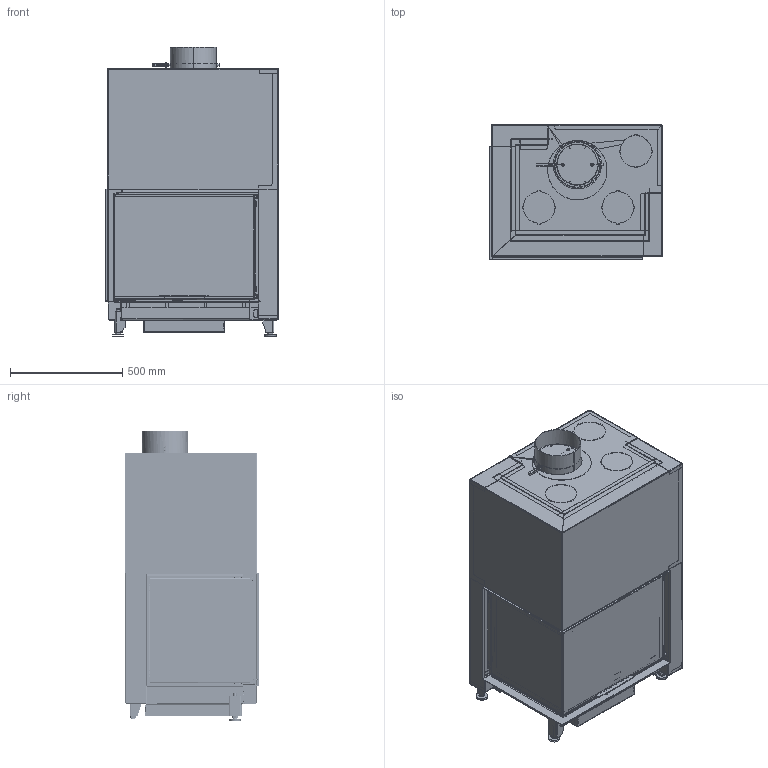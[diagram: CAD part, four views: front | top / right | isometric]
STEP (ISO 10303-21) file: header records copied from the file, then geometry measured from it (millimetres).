
FILE_DESCRIPTION(/* description */ (''),/* implementation_level */ '2;1');
FILE_NAME(/* name */ 'C:\ADSK_DM_WS\CAD_3D\03 Geraete\RII 50x68x50\Zeichnungen\RII_50x68x50_Links_mit_Mantel_Oben_Gen2_2022-03320.stp',/* time_stamp */ '2022-08-16T09:21:34+02:00',/* author */ ('TIS'),/* organization */ (''),/* preprocessor_version */ 'ST-DEVELOPER v18.1',/* originating_system */ 'Autodesk Inventor 2022',/* authorisation */ '');
FILE_SCHEMA (('AUTOMOTIVE_DESIGN { 1 0 10303 214 3 1 1 }'));
Products named in the file (8): 2022-03320; 2022-03318; 2022-03317; 2022-03316; 2022-03315; 2022-03314; 2022-03313; 2022-03312
Assembly tree (7 placements, depth 2):
  2022-03320
    2022-03318
    2022-03317
    2022-03316
    2022-03315
    2022-03314
    2022-03313
    2022-03312
Bounding box: 768.9 x 596.5 x 1288.56 mm (x, y, z)
Volume: 43482219.9 mm3; surface area: 18618677.1 mm2
Topology: 20 solids, 31 shells, 7416 faces, 20348 edges, 12844 vertices
Faces by surface type: plane 3967, cylinder 2998, bspline 224, cone 168, torus 58, sphere 1
Full cylindrical faces by diameter (mm): 3.242 x6, 4.5 x4, 4.8 x7, 6 x5, 7.9 x1, 8 x8, 9 x3, 9.5 x6, 10 x3, 11.192 x3, 11.4 x6, 12 x2, 16 x14, 30 x4, 163 x1, 333 x1, 339 x1
Entity records: 251652 total; most frequent: CARTESIAN_POINT 52504, ORIENTED_EDGE 40642, DIRECTION 40153, EDGE_CURVE 20374, AXIS2_PLACEMENT_3D 13633, LINE 12887, VECTOR 12887, VERTEX_POINT 12850
